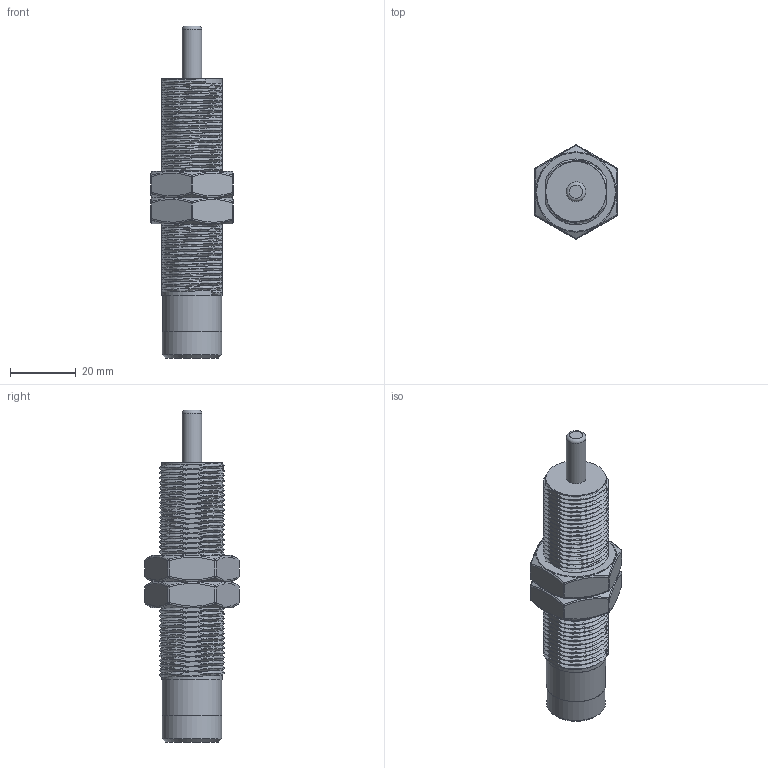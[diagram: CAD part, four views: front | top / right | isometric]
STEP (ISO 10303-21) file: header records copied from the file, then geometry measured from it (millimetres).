
FILE_DESCRIPTION(('STEP AP203'),'1');
FILE_NAME('C:/Documents and Settings/User/官帕 拳搁/KMA20-16.stp',' ',(' '),(' '),'XStep 1.0',' ',' ');
FILE_SCHEMA(('CONFIG_CONTROL_DESIGN'));
Length unit declared in the file: metre
Products named in the file (1): Assembly178
Bounding box: 25 x 28.71 x 101 mm (x, y, z)
Volume: 28471 mm3; surface area: 19018.4 mm2
Topology: 7 solids, 7 shells, 191 faces, 457 edges, 280 vertices
Faces by surface type: plane 112, bspline 27, sphere 24, cylinder 18, cone 5, torus 5
Full cylindrical faces by diameter (mm): 6 x1, 18 x2, 18.376 x1, 18.5 x2
Entity records: 14663 total; most frequent: CARTESIAN_POINT 11038, ORIENTED_EDGE 866, DIRECTION 559, EDGE_CURVE 433, VERTEX_POINT 272, AXIS2_PLACEMENT_3D 266, B_SPLINE_CURVE_WITH_KNOTS 223, EDGE_LOOP 211
